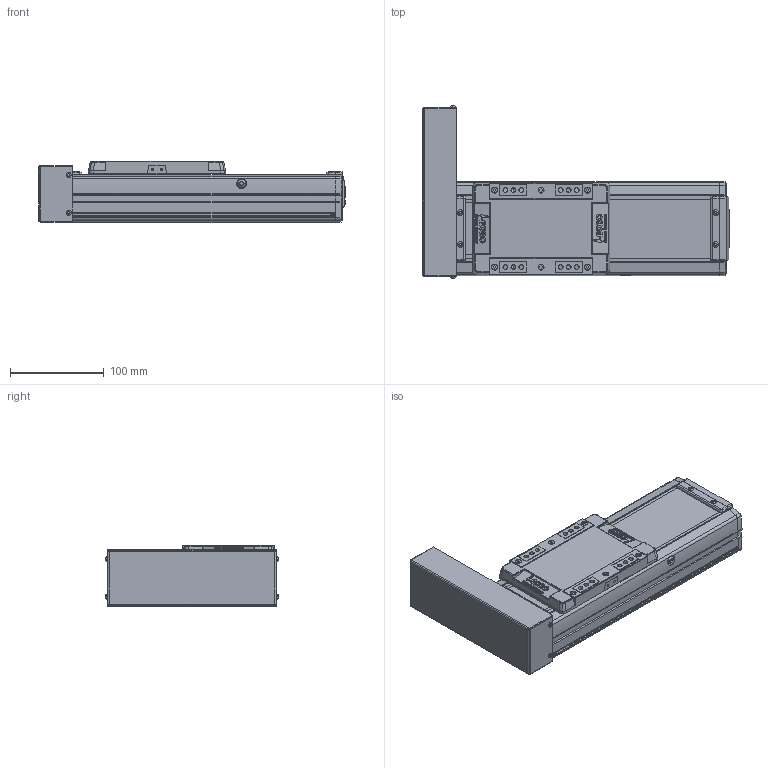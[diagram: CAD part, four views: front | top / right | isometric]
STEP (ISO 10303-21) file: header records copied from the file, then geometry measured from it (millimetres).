
FILE_DESCRIPTION(('STEP AP214'),'1');
FILE_NAME('Z:/Web/3D/SAN100/SAN100 양산용 (STEP)/SAN100ㅁㅁ-100PL.stp','2013-04-24T06:11:09',(' '),(' '),'Spatial InterOp 3D',' ',' ');
FILE_SCHEMA(('automotive_design'));
Length unit declared in the file: millimetre
Products named in the file (29): SUS COVER; SFX-SAN100; RRCV-SAN100; 스크루 : Round - M4.0 x 10.0; M3.0 x 6.0; 스크루 : Round - M3.0 x 6.0; FRBL-SAN100; SLBL-SAN100; SLCV-SAN100; 스크루 : Countersunk - M3.0 x 6.0; BASE; 스크루 : Round - M5.0 x 6.0; BTCV-SAN65; BHCS M3 X 6L
Bounding box: 326.5 x 184.13 x 66 mm (x, y, z)
Volume: 1300721.6 mm3; surface area: 301930.6 mm2
Topology: 29 solids, 30 shells, 1778 faces, 4638 edges, 2987 vertices
Faces by surface type: plane 901, cylinder 653, cone 150, sphere 40, torus 18, bspline 16
Entity records: 69998 total; most frequent: CARTESIAN_POINT 10506, DIRECTION 9761, ORIENTED_EDGE 9128, EDGE_CURVE 4564, AXIS2_PLACEMENT_3D 3471, VERTEX_POINT 2987, LINE 2819, VECTOR 2819
